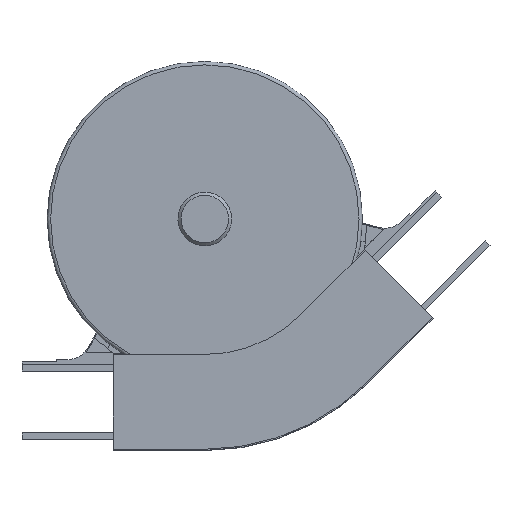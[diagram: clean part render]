
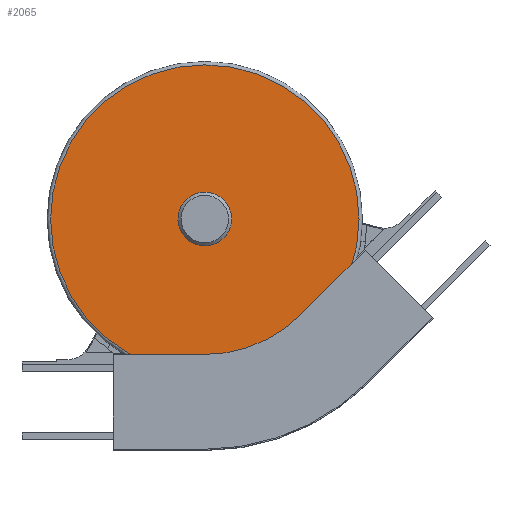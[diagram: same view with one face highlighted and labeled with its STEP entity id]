
A CAD part, top view. The second image highlights one B-rep face of the part: STEP entity #2065.
In plain terms, the highlighted planar face has unit normal (0, 0, 1).
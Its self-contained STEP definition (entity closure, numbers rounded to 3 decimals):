
#38=FACE_BOUND('',#289,.T.);
#79=CIRCLE('',#2223,21.);
#80=CIRCLE('',#2225,135.);
#164=FACE_OUTER_BOUND('',#288,.T.);
#288=EDGE_LOOP('',(#1523));
#289=EDGE_LOOP('',(#1524));
#935=VERTEX_POINT('',#3085);
#936=VERTEX_POINT('',#3089);
#1153=EDGE_CURVE('',#935,#935,#79,.T.);
#1155=EDGE_CURVE('',#936,#936,#80,.T.);
#1523=ORIENTED_EDGE('',*,*,#1155,.F.);
#1524=ORIENTED_EDGE('',*,*,#1153,.T.);
#1956=PLANE('',#2224);
#2065=ADVANCED_FACE('',(#164,#38),#1956,.T.);
#2223=AXIS2_PLACEMENT_3D('',#3086,#2504,#2505);
#2224=AXIS2_PLACEMENT_3D('',#3088,#2507,#2508);
#2225=AXIS2_PLACEMENT_3D('',#3090,#2509,#2510);
#2504=DIRECTION('center_axis',(0.,0.,-1.));
#2505=DIRECTION('ref_axis',(1.,0.,0.));
#2507=DIRECTION('center_axis',(0.,0.,1.));
#2508=DIRECTION('ref_axis',(1.,0.,0.));
#2509=DIRECTION('center_axis',(0.,0.,-1.));
#2510=DIRECTION('ref_axis',(1.,0.,0.));
#3085=CARTESIAN_POINT('',(88.036,140.599,39.));
#3086=CARTESIAN_POINT('Origin',(80.,160.,39.));
#3088=CARTESIAN_POINT('Origin',(28.338,284.724,39.));
#3089=CARTESIAN_POINT('',(215.,160.,39.));
#3090=CARTESIAN_POINT('Origin',(80.,160.,39.));
